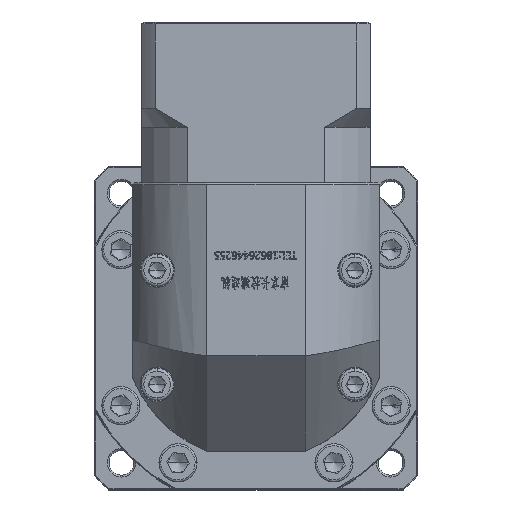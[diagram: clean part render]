
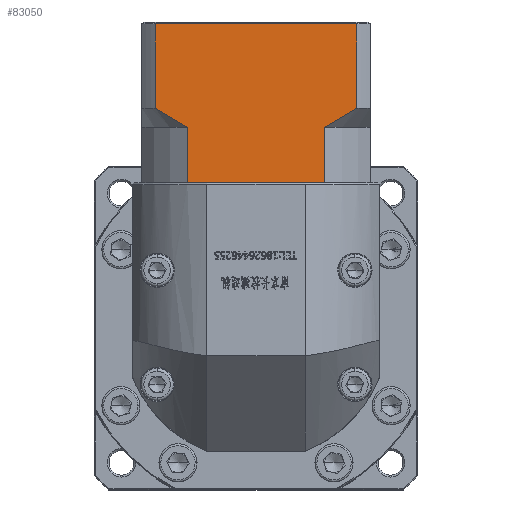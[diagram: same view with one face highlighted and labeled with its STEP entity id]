
A CAD part, top view. The second image highlights one B-rep face of the part: STEP entity #83050.
In plain terms, the highlighted planar face has unit normal (0, 0, 1).
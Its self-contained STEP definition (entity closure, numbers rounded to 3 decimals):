
#2891 = LINE ( 'NONE', #112138, #70004 ) ;
#5622 = DIRECTION ( 'NONE',  ( 0., 1., 0. ) ) ;
#6768 = ORIENTED_EDGE ( 'NONE', *, *, #66634, .F. ) ;
#7601 = CARTESIAN_POINT ( 'NONE',  ( 36.068, 147.217, 71.211 ) ) ;
#7772 = VERTEX_POINT ( 'NONE', #130669 ) ;
#7777 = CARTESIAN_POINT ( 'NONE',  ( -14.842, 131.166, 71.211 ) ) ;
#10311 = DIRECTION ( 'NONE',  ( 1., 0., 0. ) ) ;
#14501 = CARTESIAN_POINT ( 'NONE',  ( -11.299, 145.666, 71.211 ) ) ;
#16525 = VECTOR ( 'NONE', #114948, 1000. ) ;
#20691 = LINE ( 'NONE', #14501, #158912 ) ;
#21108 = CARTESIAN_POINT ( 'NONE',  ( 40.253, 149.765, 71.211 ) ) ;
#25636 = CARTESIAN_POINT ( 'NONE',  ( -5.753, 147.218, 71.211 ) ) ;
#27476 = VERTEX_POINT ( 'NONE', #31452 ) ;
#28557 = DIRECTION ( 'NONE',  ( 0., 1., 0. ) ) ;
#29303 = CARTESIAN_POINT ( 'NONE',  ( 41.616, 145.666, 71.211 ) ) ;
#31452 = CARTESIAN_POINT ( 'NONE',  ( 41.616, 172.866, 71.211 ) ) ;
#38508 = VERTEX_POINT ( 'NONE', #154467 ) ;
#39126 = CARTESIAN_POINT ( 'NONE',  ( -2.87, 145.666, 71.211 ) ) ;
#44314 = ORIENTED_EDGE ( 'NONE', *, *, #81023, .T. ) ;
#44490 = VECTOR ( 'NONE', #5622, 1000. ) ;
#45423 = DIRECTION ( 'NONE',  ( -1., 0., 0. ) ) ;
#46107 = EDGE_CURVE ( 'NONE', #27476, #38508, #74706, .T. ) ;
#47713 = EDGE_CURVE ( 'NONE', #50555, #38508, #128979, .T. ) ;
#48162 = FACE_OUTER_BOUND ( 'NONE', #131480, .T. ) ;
#50555 = VERTEX_POINT ( 'NONE', #101634 ) ;
#50999 = ORIENTED_EDGE ( 'NONE', *, *, #46107, .F. ) ;
#58883 = ORIENTED_EDGE ( 'NONE', *, *, #47713, .T. ) ;
#59056 = ORIENTED_EDGE ( 'NONE', *, *, #163321, .T. ) ;
#60896 = CARTESIAN_POINT ( 'NONE',  ( 34.642, 146.416, 71.211 ) ) ;
#66634 = EDGE_CURVE ( 'NONE', #74107, #172840, #20691, .T. ) ;
#70004 = VECTOR ( 'NONE', #45423, 1000. ) ;
#70332 = VECTOR ( 'NONE', #156823, 1000. ) ;
#70422 = CARTESIAN_POINT ( 'NONE',  ( -14.842, 173.366, 71.211 ) ) ;
#73796 = ORIENTED_EDGE ( 'NONE', *, *, #145240, .T. ) ;
#74107 = VERTEX_POINT ( 'NONE', #105726 ) ;
#74503 = LINE ( 'NONE', #90048, #70332 ) ;
#74706 = LINE ( 'NONE', #29303, #141725 ) ;
#78430 = EDGE_CURVE ( 'NONE', #95950, #143178, #127566, .T. ) ;
#78875 = CARTESIAN_POINT ( 'NONE',  ( -11.299, 150.666, 71.211 ) ) ;
#79407 = VERTEX_POINT ( 'NONE', #150834 ) ;
#80859 = EDGE_CURVE ( 'NONE', #95950, #7772, #151267, .T. ) ;
#81023 = EDGE_CURVE ( 'NONE', #79407, #166066, #155292, .T. ) ;
#83050 = ADVANCED_FACE ( 'NONE', ( #48162 ), #96751, .F. ) ;
#83831 = DIRECTION ( 'NONE',  ( 0., 1., 0. ) ) ;
#88403 = ORIENTED_EDGE ( 'NONE', *, *, #80859, .F. ) ;
#88564 = ORIENTED_EDGE ( 'NONE', *, *, #121991, .T. ) ;
#89718 = CARTESIAN_POINT ( 'NONE',  ( -14.842, 131.166, 71.211 ) ) ;
#90048 = CARTESIAN_POINT ( 'NONE',  ( 33.186, 145.666, 71.211 ) ) ;
#95950 = VERTEX_POINT ( 'NONE', #132539 ) ;
#96751 = PLANE ( 'NONE',  #101647 ) ;
#100744 = EDGE_CURVE ( 'NONE', #50555, #166066, #74503, .T. ) ;
#101303 = CARTESIAN_POINT ( 'NONE',  ( 38.873, 148.891, 71.211 ) ) ;
#101634 = CARTESIAN_POINT ( 'NONE',  ( 33.186, 145.666, 71.211 ) ) ;
#101647 = AXIS2_PLACEMENT_3D ( 'NONE', #70422, #164074, #83831 ) ;
#103277 = DIRECTION ( 'NONE',  ( 1., 0., 0. ) ) ;
#105726 = CARTESIAN_POINT ( 'NONE',  ( -11.299, 150.666, 71.211 ) ) ;
#105852 = CARTESIAN_POINT ( 'NONE',  ( -8.561, 148.893, 71.211 ) ) ;
#110073 = DIRECTION ( 'NONE',  ( 0., -1., 0. ) ) ;
#112138 = CARTESIAN_POINT ( 'NONE',  ( -14.842, 172.866, 71.211 ) ) ;
#114227 = B_SPLINE_CURVE_WITH_KNOTS ( 'NONE', 3,
 ( #78875, #159061, #105852, #25636, #119326, #39126 ),
 .UNSPECIFIED., .F., .F.,
 ( 4, 2, 4 ),
 ( 0.052, 0.057, 0.062 ),
 .UNSPECIFIED. ) ;
#114785 = CARTESIAN_POINT ( 'NONE',  ( 41.616, 150.666, 71.211 ) ) ;
#114948 = DIRECTION ( 'NONE',  ( 1., 0., 0. ) ) ;
#118065 = CARTESIAN_POINT ( 'NONE',  ( -14.842, 131.166, 71.211 ) ) ;
#119326 = CARTESIAN_POINT ( 'NONE',  ( -4.322, 146.414, 71.211 ) ) ;
#119782 = VECTOR ( 'NONE', #10311, 1000. ) ;
#119928 = ORIENTED_EDGE ( 'NONE', *, *, #78430, .T. ) ;
#121991 = EDGE_CURVE ( 'NONE', #27476, #172840, #2891, .T. ) ;
#127566 = LINE ( 'NONE', #7777, #16525 ) ;
#128979 = B_SPLINE_CURVE_WITH_KNOTS ( 'NONE', 3,
 ( #154539, #60896, #7601, #101303, #21108, #114785 ),
 .UNSPECIFIED., .F., .F.,
 ( 4, 2, 4 ),
 ( 0.1, 0.104, 0.109 ),
 .UNSPECIFIED. ) ;
#130669 = CARTESIAN_POINT ( 'NONE',  ( -2.87, 145.666, 71.211 ) ) ;
#131480 = EDGE_LOOP ( 'NONE', ( #50999, #88564, #6768, #73796, #88403, #119928, #59056, #44314, #146910, #58883 ) ) ;
#132539 = CARTESIAN_POINT ( 'NONE',  ( -2.87, 131.166, 71.211 ) ) ;
#141725 = VECTOR ( 'NONE', #110073, 1000. ) ;
#143178 = VERTEX_POINT ( 'NONE', #158405 ) ;
#145240 = EDGE_CURVE ( 'NONE', #74107, #7772, #114227, .T. ) ;
#146910 = ORIENTED_EDGE ( 'NONE', *, *, #100744, .F. ) ;
#147983 = CARTESIAN_POINT ( 'NONE',  ( -11.299, 172.866, 71.211 ) ) ;
#150834 = CARTESIAN_POINT ( 'NONE',  ( 32.195, 131.166, 71.211 ) ) ;
#151267 = LINE ( 'NONE', #166031, #44490 ) ;
#154467 = CARTESIAN_POINT ( 'NONE',  ( 41.616, 150.666, 71.211 ) ) ;
#154539 = CARTESIAN_POINT ( 'NONE',  ( 33.186, 145.666, 71.211 ) ) ;
#155292 = LINE ( 'NONE', #118065, #119782 ) ;
#156823 = DIRECTION ( 'NONE',  ( 0., -1., 0. ) ) ;
#157223 = CARTESIAN_POINT ( 'NONE',  ( 33.186, 131.166, 71.211 ) ) ;
#158405 = CARTESIAN_POINT ( 'NONE',  ( -1.879, 131.166, 71.211 ) ) ;
#158912 = VECTOR ( 'NONE', #28557, 1000. ) ;
#159061 = CARTESIAN_POINT ( 'NONE',  ( -9.939, 149.767, 71.211 ) ) ;
#163321 = EDGE_CURVE ( 'NONE', #143178, #79407, #173214, .T. ) ;
#164074 = DIRECTION ( 'NONE',  ( 0., 0., -1. ) ) ;
#166031 = CARTESIAN_POINT ( 'NONE',  ( -2.87, 145.666, 71.211 ) ) ;
#166066 = VERTEX_POINT ( 'NONE', #157223 ) ;
#168960 = VECTOR ( 'NONE', #103277, 1000. ) ;
#172840 = VERTEX_POINT ( 'NONE', #147983 ) ;
#173214 = LINE ( 'NONE', #89718, #168960 ) ;
